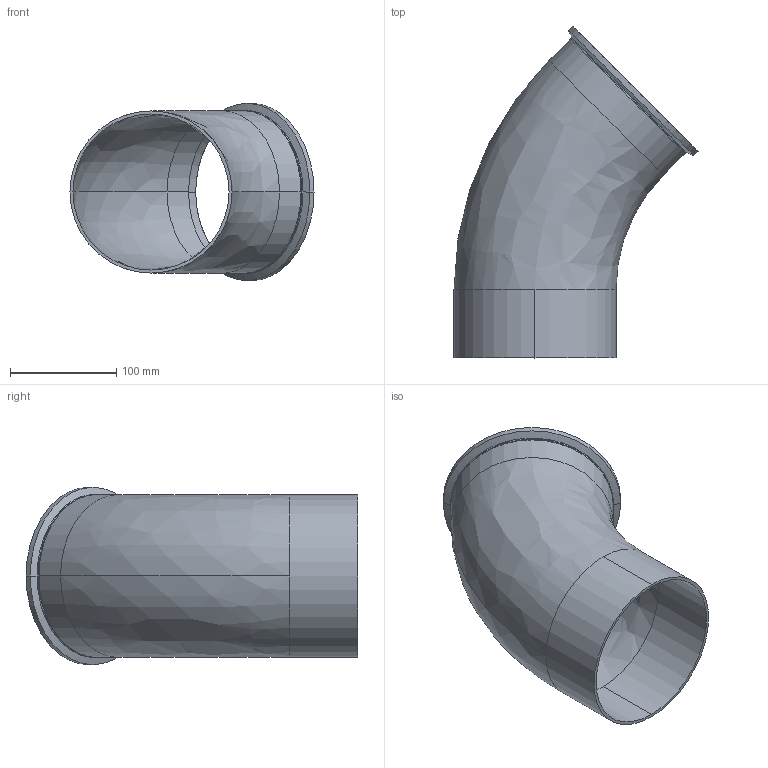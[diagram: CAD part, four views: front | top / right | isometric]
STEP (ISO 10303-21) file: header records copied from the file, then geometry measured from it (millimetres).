
FILE_DESCRIPTION (( 'STEP AP214' ), '1' );
FILE_NAME ('TE2KC6L6.0-...STEP', '2016-05-22T06:34:27', ( 'eran' ), ( '' ), 'SwSTEP 2.0', 'SolidWorks 2016', '' );
FILE_SCHEMA (( 'AUTOMOTIVE_DESIGN' ));
Length unit declared in the file: millimetre
Products named in the file (1): TE2KC6L6.0-..
Bounding box: 229.53 x 312.13 x 166.88 mm (x, y, z)
Volume: 392020.6 mm3; surface area: 277259.1 mm2
Topology: 2 solids, 2 shells, 39 faces, 96 edges, 62 vertices
Faces by surface type: bspline 14, cylinder 14, cone 6, plane 5
Entity records: 2362 total; most frequent: CARTESIAN_POINT 1386, DIRECTION 212, ORIENTED_EDGE 192, AXIS2_PLACEMENT_3D 96, EDGE_CURVE 96, CIRCLE 70, VERTEX_POINT 62, EDGE_LOOP 44
